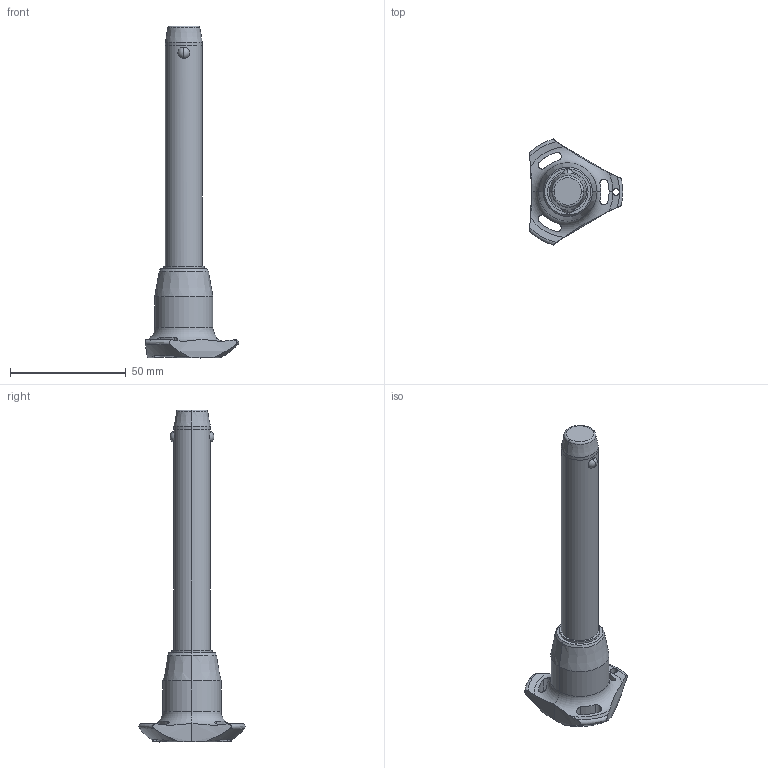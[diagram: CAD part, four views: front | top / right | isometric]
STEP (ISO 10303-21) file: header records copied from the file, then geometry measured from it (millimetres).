
FILE_DESCRIPTION (( 'STEP AP203' ), '1' );
FILE_NAME ('QR1726.M16-090-T.step', '2025-11-13T11:20:46', ( '' ), ( '' ), 'SwSTEP 2.0', 'SolidWorks 2019', '' );
FILE_SCHEMA (( 'CONFIG_CONTROL_DESIGN' ));
Length unit declared in the file: millimetre
Products named in the file (1): QR1726.M16-090-T
Bounding box: 40.5 x 45.88 x 143.7 mm (x, y, z)
Volume: 41825.1 mm3; surface area: 11116.9 mm2
Topology: 1 solids, 1 shells, 68 faces, 183 edges, 116 vertices
Faces by surface type: cylinder 32, cone 14, torus 11, sphere 6, plane 5
Entity records: 2923 total; most frequent: CARTESIAN_POINT 1170, ORIENTED_EDGE 366, DIRECTION 346, EDGE_CURVE 183, AXIS2_PLACEMENT_3D 154, VERTEX_POINT 116, CIRCLE 85, EDGE_LOOP 75
